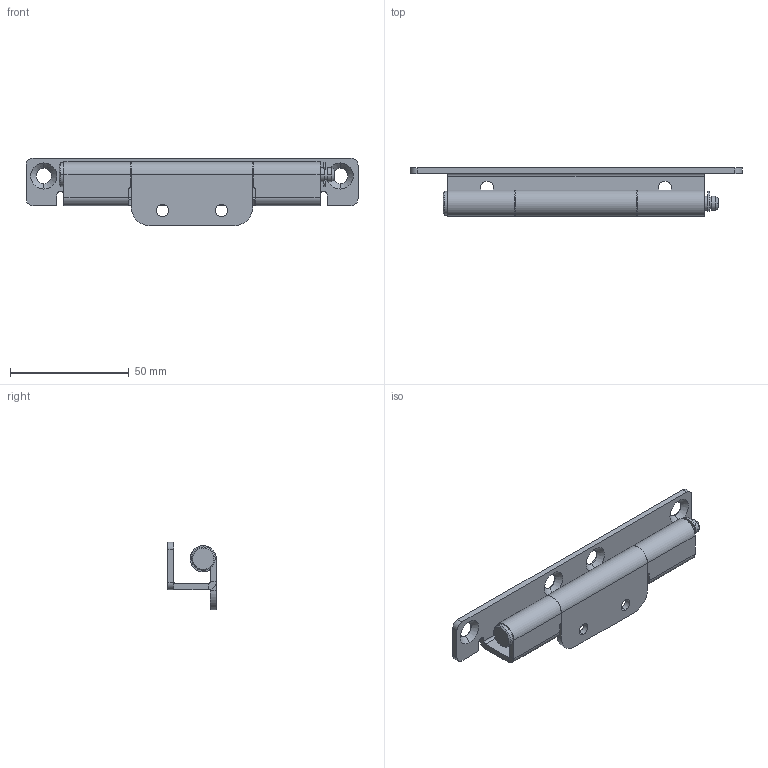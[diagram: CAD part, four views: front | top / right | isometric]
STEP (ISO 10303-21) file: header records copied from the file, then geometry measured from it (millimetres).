
FILE_DESCRIPTION (( 'STEP AP203' ), '1' );
FILE_NAME ('CL186S9C001.STEP', '2016-07-13T06:46:48', ( 'master' ), ( 'Microsoft' ), 'SwSTEP 2.0', 'SolidWorks 2014', '' );
FILE_SCHEMA (( 'CONFIG_CONTROL_DESIGN' ));
Length unit declared in the file: millimetre
Products named in the file (5): CL186S9C001; 8SJ.CL186.0460隅蝓蟈; 8SJ.CL283-2.0450雄蝓蟈; 8SJ.CL186.0090蛌粣; E rings GB_GB_CONNECTING_PIECE_RINGS_HR 5
Assembly tree (4 placements, depth 2):
  CL186S9C001
    8SJ.CL186.0460隅蝓蟈
    8SJ.CL283-2.0450雄蝓蟈
    8SJ.CL186.0090蛌粣
    E rings GB_GB_CONNECTING_PIECE_RINGS_HR 5
Bounding box: 140 x 20.5 x 28.5 mm (x, y, z)
Volume: 22660.6 mm3; surface area: 20138.1 mm2
Topology: 4 solids, 4 shells, 131 faces, 330 edges, 210 vertices
Faces by surface type: cylinder 66, plane 53, cone 12
Entity records: 4505 total; most frequent: DIRECTION 752, CARTESIAN_POINT 678, ORIENTED_EDGE 660, EDGE_CURVE 330, AXIS2_PLACEMENT_3D 284, VERTEX_POINT 210, VECTOR 184, LINE 184
